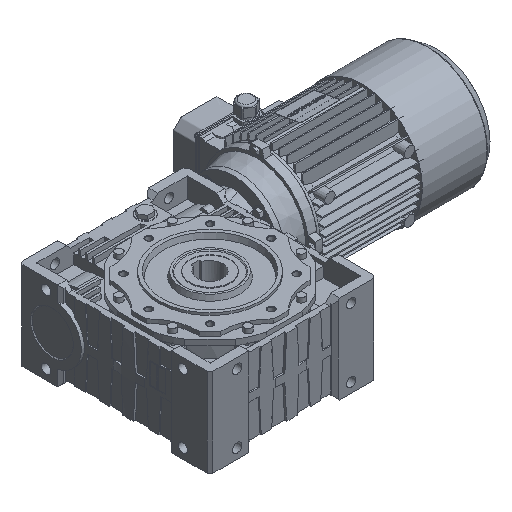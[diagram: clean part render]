
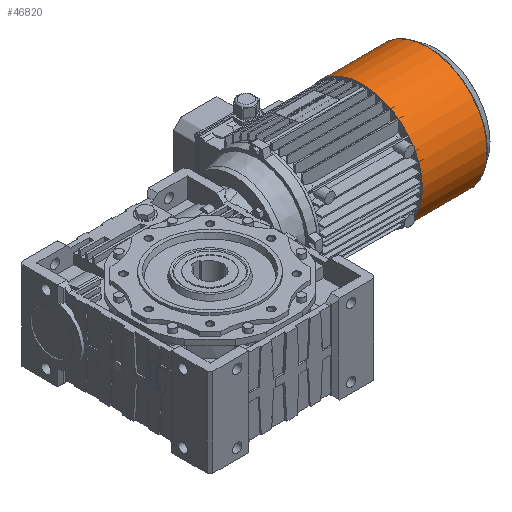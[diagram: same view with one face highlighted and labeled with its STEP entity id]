
A CAD part, isometric view. The second image highlights one B-rep face of the part: STEP entity #46820.
In plain terms, the highlighted cylindrical face has radius 105.2 mm (diameter 210.4 mm), a full revolution.
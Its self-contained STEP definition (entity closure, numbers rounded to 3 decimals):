
#2728=CIRCLE('',#51656,105.2);
#2729=CIRCLE('',#51658,105.2);
#3654=CYLINDRICAL_SURFACE('',#51657,105.2);
#17076=ORIENTED_EDGE('',*,*,#23868,.F.);
#17077=ORIENTED_EDGE('',*,*,#23867,.T.);
#23867=EDGE_CURVE('',#28424,#28424,#2728,.T.);
#23868=EDGE_CURVE('',#28425,#28425,#2729,.T.);
#28424=VERTEX_POINT('',#80311);
#28425=VERTEX_POINT('',#80314);
#39831=EDGE_LOOP('',(#17076));
#39832=EDGE_LOOP('',(#17077));
#42757=FACE_BOUND('',#39831,.T.);
#42758=FACE_BOUND('',#39832,.T.);
#46820=ADVANCED_FACE('',(#42757,#42758),#3654,.T.);
#51656=AXIS2_PLACEMENT_3D('',#80310,#65472,#65473);
#51657=AXIS2_PLACEMENT_3D('',#80312,#65474,#65475);
#51658=AXIS2_PLACEMENT_3D('',#80313,#65476,#65477);
#65472=DIRECTION('',(1.,0.,0.));
#65473=DIRECTION('',(0.,0.,-1.));
#65474=DIRECTION('',(1.,0.,0.));
#65475=DIRECTION('',(0.,0.,-1.));
#65476=DIRECTION('',(1.,0.,0.));
#65477=DIRECTION('',(0.,0.,-1.));
#80310=CARTESIAN_POINT('',(0.,0.,0.));
#80311=CARTESIAN_POINT('',(0.,0.,-105.2));
#80312=CARTESIAN_POINT('',(130.,0.,0.));
#80313=CARTESIAN_POINT('',(113.374,0.,0.));
#80314=CARTESIAN_POINT('',(113.374,0.,-105.2));
